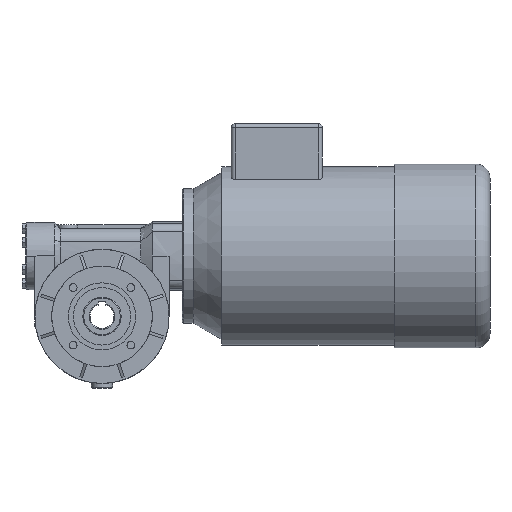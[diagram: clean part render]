
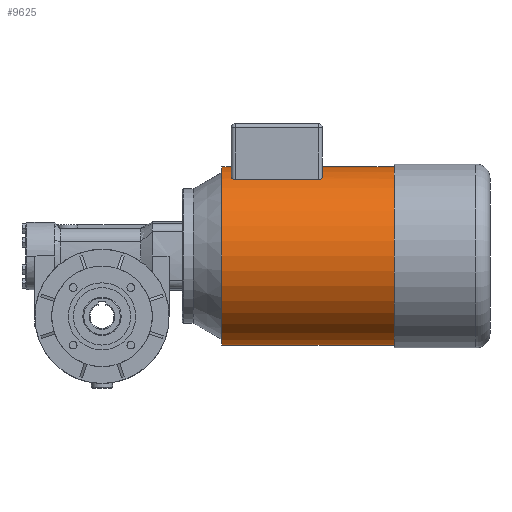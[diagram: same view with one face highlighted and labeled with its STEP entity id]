
A CAD part, front view. The second image highlights one B-rep face of the part: STEP entity #9625.
In plain terms, the highlighted cylindrical face has radius 93 mm (diameter 186 mm), a partial arc.
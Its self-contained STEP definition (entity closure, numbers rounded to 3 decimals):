
#3325=CARTESIAN_POINT('',(0.,0.,30.));
#3326=DIRECTION('',(0.,0.,-1.));
#3327=DIRECTION('',(1.,0.,0.));
#3328=AXIS2_PLACEMENT_3D('',#3325,#3326,#3327);
#3335=DIRECTION('',(0.,0.,-1.));
#3336=VECTOR('',#3335,87.);
#3337=CARTESIAN_POINT('',(-79.955,-47.5,131.));
#3338=LINE('',#3337,#3336);
#3339=CARTESIAN_POINT('',(0.,0.,135.));
#3340=DIRECTION('',(0.,0.,-1.));
#3341=DIRECTION('',(-0.884,-0.468,0.));
#3342=AXIS2_PLACEMENT_3D('',#3339,#3340,#3341);
#3344=CARTESIAN_POINT('',(0.,0.,210.));
#3345=DIRECTION('',(0.,0.,-1.));
#3346=DIRECTION('',(1.,0.,0.));
#3347=AXIS2_PLACEMENT_3D('',#3344,#3345,#3346);
#3349=CARTESIAN_POINT('',(0.,0.,40.));
#3350=DIRECTION('',(0.,0.,-1.));
#3351=DIRECTION('',(-0.884,-0.468,0.));
#3352=AXIS2_PLACEMENT_3D('',#3349,#3350,#3351);
#3402=CARTESIAN_POINT('',(-79.955,-47.5,44.));
#3403=CARTESIAN_POINT('',(-79.955,-47.5,43.612));
#3404=CARTESIAN_POINT('',(-80.022,-47.387,
42.822));
#3405=CARTESIAN_POINT('',(-80.339,-46.849,
41.697));
#3406=CARTESIAN_POINT('',(-80.841,-45.98,
40.774));
#3407=CARTESIAN_POINT('',(-81.492,-44.819,
40.148));
#3408=CARTESIAN_POINT('',(-81.963,-43.947,40.));
#3409=CARTESIAN_POINT('',(-82.199,-43.5,40.));
#3437=DIRECTION('',(0.,0.,-1.));
#3438=VECTOR('',#3437,10.);
#3439=CARTESIAN_POINT('',(-93.,0.,40.));
#3440=LINE('',#3439,#3438);
#3441=DIRECTION('',(0.,0.,-1.));
#3442=VECTOR('',#3441,180.);
#3443=CARTESIAN_POINT('',(93.,0.,210.));
#3444=LINE('',#3443,#3442);
#3450=DIRECTION('',(0.,0.,-1.));
#3451=VECTOR('',#3450,75.);
#3452=CARTESIAN_POINT('',(-93.,0.,210.));
#3453=LINE('',#3452,#3451);
#3536=CARTESIAN_POINT('',(-82.199,-43.5,135.));
#3537=CARTESIAN_POINT('',(-81.963,-43.948,135.));
#3538=CARTESIAN_POINT('',(-81.491,-44.821,
134.852));
#3539=CARTESIAN_POINT('',(-80.841,-45.98,
134.225));
#3540=CARTESIAN_POINT('',(-80.339,-46.85,
133.302));
#3541=CARTESIAN_POINT('',(-80.022,-47.387,
132.177));
#3542=CARTESIAN_POINT('',(-79.955,-47.5,131.388));
#3543=CARTESIAN_POINT('',(-79.955,-47.5,131.));
#5103=CARTESIAN_POINT('',(93.,0.,210.));
#5104=CARTESIAN_POINT('',(93.,0.,30.));
#5105=VERTEX_POINT('',#5103);
#5106=VERTEX_POINT('',#5104);
#5107=CARTESIAN_POINT('',(-93.,0.,30.));
#5108=VERTEX_POINT('',#5107);
#5117=CARTESIAN_POINT('',(-93.,0.,210.));
#5118=VERTEX_POINT('',#5117);
#5147=CARTESIAN_POINT('',(-93.,0.,135.));
#5148=VERTEX_POINT('',#5147);
#5149=CARTESIAN_POINT('',(-93.,0.,40.));
#5150=VERTEX_POINT('',#5149);
#5151=CARTESIAN_POINT('',(-82.199,-43.5,40.));
#5152=VERTEX_POINT('',#5151);
#5153=CARTESIAN_POINT('',(-79.955,-47.5,131.));
#5154=CARTESIAN_POINT('',(-79.955,-47.5,44.));
#5155=VERTEX_POINT('',#5153);
#5156=VERTEX_POINT('',#5154);
#5157=CARTESIAN_POINT('',(-82.199,-43.5,135.));
#5158=VERTEX_POINT('',#5157);
#9599=CARTESIAN_POINT('',(0.,0.,325.5));
#9600=DIRECTION('',(0.,0.,-1.));
#9601=DIRECTION('',(1.,0.,0.));
#9602=AXIS2_PLACEMENT_3D('',#9599,#9600,#9601);
#9603=CYLINDRICAL_SURFACE('',#9602,93.);
#9605=ORIENTED_EDGE('',*,*,#9604,.F.);
#9607=ORIENTED_EDGE('',*,*,#9606,.F.);
#9609=ORIENTED_EDGE('',*,*,#9608,.T.);
#9611=ORIENTED_EDGE('',*,*,#9610,.F.);
#9613=ORIENTED_EDGE('',*,*,#9612,.F.);
#9615=ORIENTED_EDGE('',*,*,#9614,.T.);
#9616=ORIENTED_EDGE('',*,*,#9588,.T.);
#9618=ORIENTED_EDGE('',*,*,#9617,.F.);
#9620=ORIENTED_EDGE('',*,*,#9619,.F.);
#9622=ORIENTED_EDGE('',*,*,#9621,.F.);
#9623=EDGE_LOOP('',(#9605,#9607,#9609,#9611,#9613,#9615,#9616,#9618,#9620,
#9622));
#9624=FACE_OUTER_BOUND('',#9623,.F.);
#3329=CIRCLE('',#3328,93.);
#3343=CIRCLE('',#3342,93.);
#3348=CIRCLE('',#3347,93.);
#3353=CIRCLE('',#3352,93.);
#3410=B_SPLINE_CURVE_WITH_KNOTS('',3,(#3402,#3403,#3404,#3405,#3406,#3407,#3408,
#3409),.UNSPECIFIED.,.F.,.F.,(4,1,1,1,1,4),(0.,0.2,0.4,0.6,0.8,1.),
.UNSPECIFIED.);
#3544=B_SPLINE_CURVE_WITH_KNOTS('',3,(#3536,#3537,#3538,#3539,#3540,#3541,#3542,
#3543),.UNSPECIFIED.,.F.,.F.,(4,1,1,1,1,4),(0.,0.2,0.4,0.6,0.8,1.),
.UNSPECIFIED.);
#9588=EDGE_CURVE('',#5106,#5108,#3329,.T.);
#9604=EDGE_CURVE('',#5155,#5156,#3338,.T.);
#9606=EDGE_CURVE('',#5158,#5155,#3544,.T.);
#9608=EDGE_CURVE('',#5158,#5148,#3343,.T.);
#9610=EDGE_CURVE('',#5118,#5148,#3453,.T.);
#9612=EDGE_CURVE('',#5105,#5118,#3348,.T.);
#9614=EDGE_CURVE('',#5105,#5106,#3444,.T.);
#9617=EDGE_CURVE('',#5150,#5108,#3440,.T.);
#9619=EDGE_CURVE('',#5152,#5150,#3353,.T.);
#9621=EDGE_CURVE('',#5156,#5152,#3410,.T.);
#9625=ADVANCED_FACE('',(#9624),#9603,.T.);
